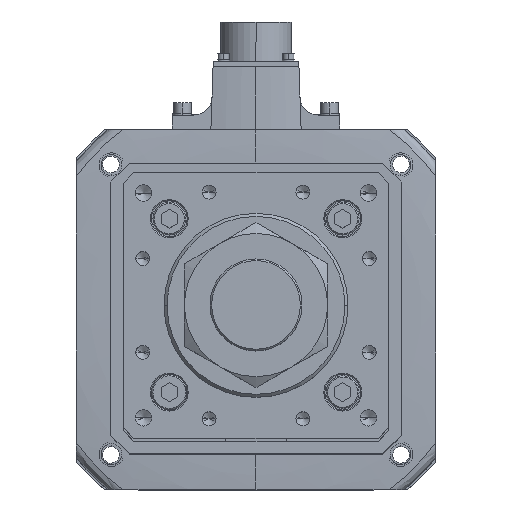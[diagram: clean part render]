
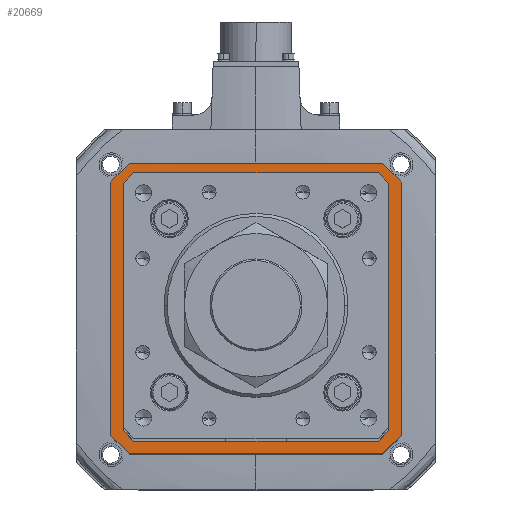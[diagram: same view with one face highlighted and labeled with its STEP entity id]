
A CAD part, top view. The second image highlights one B-rep face of the part: STEP entity #20669.
In plain terms, the highlighted planar face has unit normal (0, 0, 1).
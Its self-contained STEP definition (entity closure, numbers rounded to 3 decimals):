
#1262 = VERTEX_POINT ( 'NONE', #25464 ) ;
#1731 = EDGE_CURVE ( 'NONE', #24483, #41725, #5398, .T. ) ;
#1787 = EDGE_CURVE ( 'NONE', #41725, #28644, #26018, .T. ) ;
#2092 = VECTOR ( 'NONE', #41817, 1000. ) ;
#3026 = EDGE_CURVE ( 'NONE', #1262, #24483, #26881, .T. ) ;
#3331 = AXIS2_PLACEMENT_3D ( 'NONE', #19953, #7643, #41342 ) ;
#4304 = CARTESIAN_POINT ( 'NONE',  ( 62., 71., -142. ) ) ;
#5335 = DIRECTION ( 'NONE',  ( 0., -1., 0. ) ) ;
#5360 = VERTEX_POINT ( 'NONE', #4304 ) ;
#5398 = LINE ( 'NONE', #24849, #22082 ) ;
#5493 = LINE ( 'NONE', #28851, #15467 ) ;
#5806 = EDGE_CURVE ( 'NONE', #28644, #44859, #46025, .T. ) ;
#5818 = CARTESIAN_POINT ( 'NONE',  ( 71., -62., -142. ) ) ;
#6166 = ORIENTED_EDGE ( 'NONE', *, *, #45351, .F. ) ;
#6264 = VERTEX_POINT ( 'NONE', #52238 ) ;
#6358 = LINE ( 'NONE', #40833, #51657 ) ;
#7477 = CARTESIAN_POINT ( 'NONE',  ( 71., -62., -142. ) ) ;
#7643 = DIRECTION ( 'NONE',  ( 0., 0., 1. ) ) ;
#7644 = DIRECTION ( 'NONE',  ( 1., 0., 0. ) ) ;
#8554 = EDGE_LOOP ( 'NONE', ( #28310, #23831, #30225, #41301, #20881, #18298, #41362, #19522 ) ) ;
#8683 = DIRECTION ( 'NONE',  ( 0., -1., 0. ) ) ;
#9022 = LINE ( 'NONE', #18274, #9685 ) ;
#9283 = LINE ( 'NONE', #43275, #30575 ) ;
#9685 = VECTOR ( 'NONE', #35376, 1000. ) ;
#9772 = VERTEX_POINT ( 'NONE', #14849 ) ;
#10313 = VECTOR ( 'NONE', #47306, 1000. ) ;
#11010 = EDGE_CURVE ( 'NONE', #32570, #55240, #47921, .T. ) ;
#11027 = ORIENTED_EDGE ( 'NONE', *, *, #25541, .F. ) ;
#12195 = VECTOR ( 'NONE', #28413, 1000. ) ;
#13250 = CARTESIAN_POINT ( 'NONE',  ( 71., 62., -142. ) ) ;
#14849 = CARTESIAN_POINT ( 'NONE',  ( -62., -71., -142. ) ) ;
#14853 = VECTOR ( 'NONE', #5335, 1000. ) ;
#15467 = VECTOR ( 'NONE', #7644, 1000. ) ;
#16672 = LINE ( 'NONE', #45386, #26615 ) ;
#16860 = LINE ( 'NONE', #18796, #30832 ) ;
#17058 = EDGE_CURVE ( 'NONE', #55240, #5360, #5493, .T. ) ;
#17096 = VERTEX_POINT ( 'NONE', #7477 ) ;
#17264 = EDGE_LOOP ( 'NONE', ( #27347, #31222, #46210, #11027, #44911, #41155, #22191, #6166 ) ) ;
#17332 = CARTESIAN_POINT ( 'NONE',  ( 63., -58.793, -142. ) ) ;
#17415 = VECTOR ( 'NONE', #47796, 1000. ) ;
#17693 = CARTESIAN_POINT ( 'NONE',  ( -71., -62., -142. ) ) ;
#18274 = CARTESIAN_POINT ( 'NONE',  ( -63., 0., -142. ) ) ;
#18298 = ORIENTED_EDGE ( 'NONE', *, *, #39447, .T. ) ;
#18796 = CARTESIAN_POINT ( 'NONE',  ( -71., 62., -142. ) ) ;
#18874 = LINE ( 'NONE', #47376, #14853 ) ;
#19202 = DIRECTION ( 'NONE',  ( -0.707, 0.707, 0. ) ) ;
#19522 = ORIENTED_EDGE ( 'NONE', *, *, #3026, .T. ) ;
#19636 = DIRECTION ( 'NONE',  ( 0.707, -0.707, 0. ) ) ;
#19879 = DIRECTION ( 'NONE',  ( 0.707, 0.707, 0. ) ) ;
#19936 = CARTESIAN_POINT ( 'NONE',  ( -62., -71., -142. ) ) ;
#19953 = CARTESIAN_POINT ( 'NONE',  ( 0., 0., -142. ) ) ;
#20301 = PLANE ( 'NONE',  #3331 ) ;
#20669 = ADVANCED_FACE ( 'NONE', ( #29549, #50914 ), #20301, .T. ) ;
#20881 = ORIENTED_EDGE ( 'NONE', *, *, #45567, .T. ) ;
#21222 = EDGE_CURVE ( 'NONE', #21752, #17096, #18874, .T. ) ;
#21752 = VERTEX_POINT ( 'NONE', #13250 ) ;
#22082 = VECTOR ( 'NONE', #8683, 1000. ) ;
#22157 = LINE ( 'NONE', #45944, #17415 ) ;
#22191 = ORIENTED_EDGE ( 'NONE', *, *, #21222, .F. ) ;
#22928 = EDGE_CURVE ( 'NONE', #17096, #36259, #35990, .T. ) ;
#23831 = ORIENTED_EDGE ( 'NONE', *, *, #1787, .T. ) ;
#24483 = VERTEX_POINT ( 'NONE', #27763 ) ;
#24849 = CARTESIAN_POINT ( 'NONE',  ( 63., 0., -142. ) ) ;
#25088 = DIRECTION ( 'NONE',  ( -1., 0., 0. ) ) ;
#25464 = CARTESIAN_POINT ( 'NONE',  ( 58.793, 63., -142. ) ) ;
#25541 = EDGE_CURVE ( 'NONE', #9772, #43377, #41815, .T. ) ;
#26018 = LINE ( 'NONE', #29486, #2092 ) ;
#26615 = VECTOR ( 'NONE', #19879, 1000. ) ;
#26881 = LINE ( 'NONE', #28233, #12195 ) ;
#27347 = ORIENTED_EDGE ( 'NONE', *, *, #17058, .F. ) ;
#27763 = CARTESIAN_POINT ( 'NONE',  ( 63., 58.793, -142. ) ) ;
#28233 = CARTESIAN_POINT ( 'NONE',  ( 60.896, 60.896, -142. ) ) ;
#28310 = ORIENTED_EDGE ( 'NONE', *, *, #1731, .T. ) ;
#28413 = DIRECTION ( 'NONE',  ( 0.707, -0.707, 0. ) ) ;
#28443 = VERTEX_POINT ( 'NONE', #28560 ) ;
#28560 = CARTESIAN_POINT ( 'NONE',  ( -63., -58.793, -142. ) ) ;
#28644 = VERTEX_POINT ( 'NONE', #42133 ) ;
#28851 = CARTESIAN_POINT ( 'NONE',  ( 62., 71., -142. ) ) ;
#29308 = VECTOR ( 'NONE', #44365, 1000. ) ;
#29486 = CARTESIAN_POINT ( 'NONE',  ( 60.896, -60.896, -142. ) ) ;
#29549 = FACE_BOUND ( 'NONE', #8554, .T. ) ;
#29984 = CARTESIAN_POINT ( 'NONE',  ( 62., -71., -142. ) ) ;
#30225 = ORIENTED_EDGE ( 'NONE', *, *, #5806, .T. ) ;
#30575 = VECTOR ( 'NONE', #47162, 1000. ) ;
#30832 = VECTOR ( 'NONE', #40017, 1000. ) ;
#31222 = ORIENTED_EDGE ( 'NONE', *, *, #11010, .F. ) ;
#32570 = VERTEX_POINT ( 'NONE', #54810 ) ;
#34430 = CARTESIAN_POINT ( 'NONE',  ( 62., -71., -142. ) ) ;
#34570 = DIRECTION ( 'NONE',  ( 0.707, 0.707, 0. ) ) ;
#34754 = CARTESIAN_POINT ( 'NONE',  ( -62., 71., -142. ) ) ;
#35376 = DIRECTION ( 'NONE',  ( 0., 1., 0. ) ) ;
#35990 = LINE ( 'NONE', #5818, #29308 ) ;
#36259 = VERTEX_POINT ( 'NONE', #29984 ) ;
#36380 = EDGE_CURVE ( 'NONE', #36259, #9772, #51592, .T. ) ;
#37921 = CARTESIAN_POINT ( 'NONE',  ( 0., -63., -142. ) ) ;
#39122 = VECTOR ( 'NONE', #19202, 1000. ) ;
#39249 = VECTOR ( 'NONE', #34570, 1000. ) ;
#39447 = EDGE_CURVE ( 'NONE', #6264, #46344, #16672, .T. ) ;
#40017 = DIRECTION ( 'NONE',  ( 0., 1., 0. ) ) ;
#40833 = CARTESIAN_POINT ( 'NONE',  ( 71., 62., -142. ) ) ;
#41155 = ORIENTED_EDGE ( 'NONE', *, *, #22928, .F. ) ;
#41301 = ORIENTED_EDGE ( 'NONE', *, *, #48945, .T. ) ;
#41342 = DIRECTION ( 'NONE',  ( 1., 0., 0. ) ) ;
#41362 = ORIENTED_EDGE ( 'NONE', *, *, #55028, .T. ) ;
#41725 = VERTEX_POINT ( 'NONE', #17332 ) ;
#41815 = LINE ( 'NONE', #19936, #39122 ) ;
#41817 = DIRECTION ( 'NONE',  ( -0.707, -0.707, 0. ) ) ;
#42133 = CARTESIAN_POINT ( 'NONE',  ( 58.793, -63., -142. ) ) ;
#43275 = CARTESIAN_POINT ( 'NONE',  ( 0., 63., -142. ) ) ;
#43377 = VERTEX_POINT ( 'NONE', #17693 ) ;
#44365 = DIRECTION ( 'NONE',  ( -0.707, -0.707, 0. ) ) ;
#44859 = VERTEX_POINT ( 'NONE', #48217 ) ;
#44911 = ORIENTED_EDGE ( 'NONE', *, *, #36380, .F. ) ;
#45351 = EDGE_CURVE ( 'NONE', #5360, #21752, #6358, .T. ) ;
#45386 = CARTESIAN_POINT ( 'NONE',  ( -60.896, 60.896, -142. ) ) ;
#45567 = EDGE_CURVE ( 'NONE', #28443, #6264, #9022, .T. ) ;
#45944 = CARTESIAN_POINT ( 'NONE',  ( -60.896, -60.896, -142. ) ) ;
#46025 = LINE ( 'NONE', #37921, #54693 ) ;
#46210 = ORIENTED_EDGE ( 'NONE', *, *, #51962, .F. ) ;
#46344 = VERTEX_POINT ( 'NONE', #47171 ) ;
#47162 = DIRECTION ( 'NONE',  ( 1., 0., 0. ) ) ;
#47171 = CARTESIAN_POINT ( 'NONE',  ( -58.793, 63., -142. ) ) ;
#47306 = DIRECTION ( 'NONE',  ( -1., 0., 0. ) ) ;
#47376 = CARTESIAN_POINT ( 'NONE',  ( 71., 62., -142. ) ) ;
#47796 = DIRECTION ( 'NONE',  ( -0.707, 0.707, 0. ) ) ;
#47921 = LINE ( 'NONE', #34754, #39249 ) ;
#48217 = CARTESIAN_POINT ( 'NONE',  ( -58.793, -63., -142. ) ) ;
#48837 = CARTESIAN_POINT ( 'NONE',  ( -62., 71., -142. ) ) ;
#48945 = EDGE_CURVE ( 'NONE', #44859, #28443, #22157, .T. ) ;
#50914 = FACE_OUTER_BOUND ( 'NONE', #17264, .T. ) ;
#51592 = LINE ( 'NONE', #34430, #10313 ) ;
#51657 = VECTOR ( 'NONE', #19636, 1000. ) ;
#51962 = EDGE_CURVE ( 'NONE', #43377, #32570, #16860, .T. ) ;
#52238 = CARTESIAN_POINT ( 'NONE',  ( -63., 58.793, -142. ) ) ;
#54693 = VECTOR ( 'NONE', #25088, 1000. ) ;
#54810 = CARTESIAN_POINT ( 'NONE',  ( -71., 62., -142. ) ) ;
#55028 = EDGE_CURVE ( 'NONE', #46344, #1262, #9283, .T. ) ;
#55240 = VERTEX_POINT ( 'NONE', #48837 ) ;
